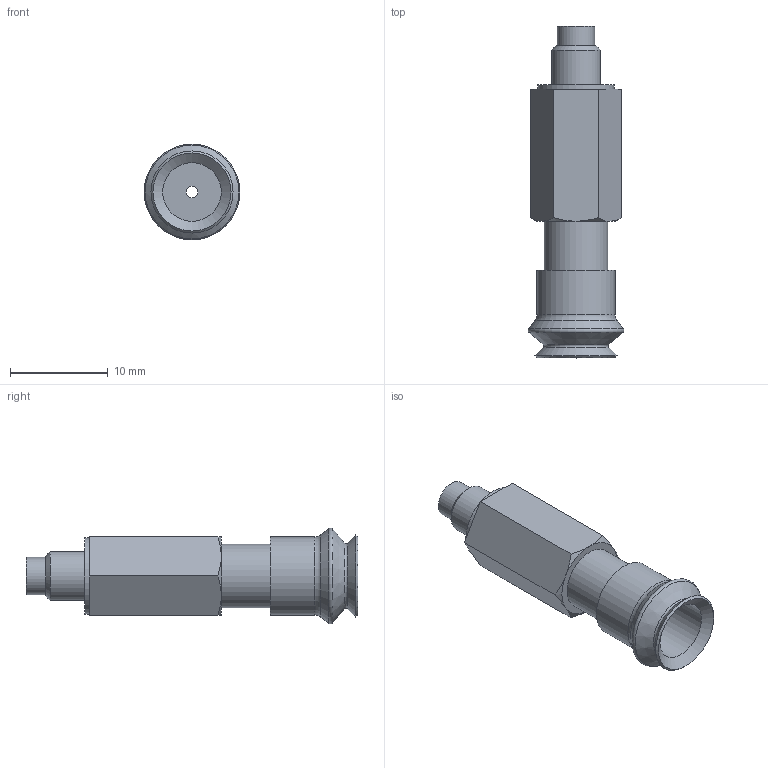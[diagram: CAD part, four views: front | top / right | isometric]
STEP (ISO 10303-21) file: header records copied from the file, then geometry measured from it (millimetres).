
FILE_DESCRIPTION(('STEP AP203'),'1');
FILE_NAME('.stp','2025-04-23T04:45:54',(' '),(' '),'Spatial InterOp 3D',' ',' ');
FILE_SCHEMA(('CONFIG_CONTROL_DESIGN'));
Length unit declared in the file: millimetre
Products named in the file (4): BPSS-L5-BPJG-8-※; PSS-7-L5-M; PSS-7-L5-F; BPJG-8-※
Assembly tree (3 placements, depth 2):
  BPSS-L5-BPJG-8-※
    PSS-7-L5-M
    PSS-7-L5-F
    BPJG-8-※
Bounding box: 9.8 x 34 x 9.8 mm (x, y, z)
Volume: 1226.7 mm3; surface area: 1882.8 mm2
Topology: 3 solids, 3 shells, 52 faces, 99 edges, 61 vertices
Faces by surface type: plane 20, cylinder 14, cone 12, torus 6
Full cylindrical faces by diameter (mm): 1.2 x1, 2.4 x2, 3.4 x1, 3.8 x1, 4 x2, 5 x1, 6 x2, 6.5 x2, 7.8 x1, 8 x1
Entity records: 1354 total; most frequent: DIRECTION 214, CARTESIAN_POINT 206, ORIENTED_EDGE 138, AXIS2_PLACEMENT_3D 101, EDGE_LOOP 92, FACE_OUTER_BOUND 72, EDGE_CURVE 69, VERTEX_POINT 57
